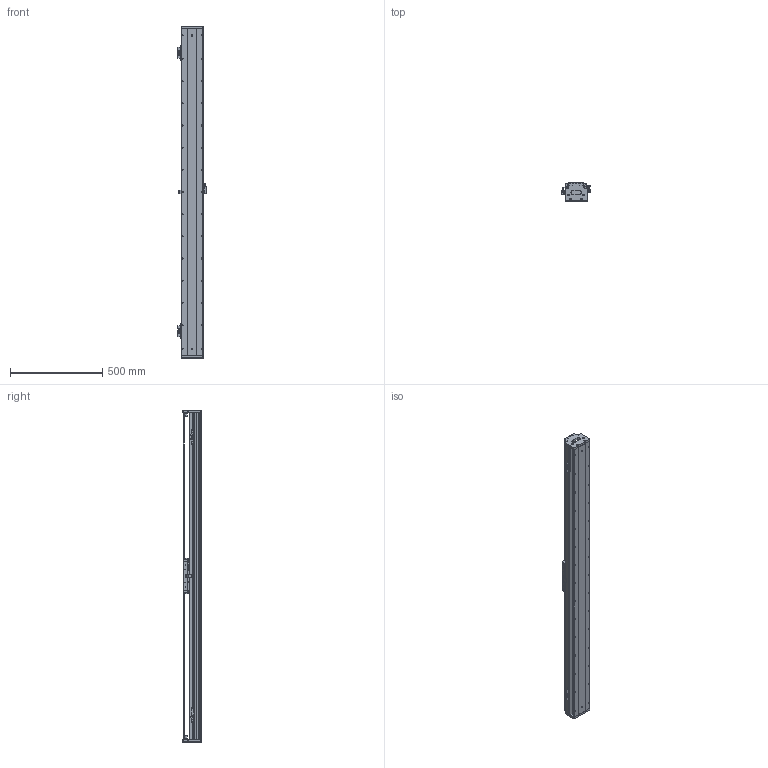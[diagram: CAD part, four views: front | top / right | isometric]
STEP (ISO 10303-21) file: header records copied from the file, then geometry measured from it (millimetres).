
FILE_DESCRIPTION (( 'STEP AP203' ), '1' );
FILE_NAME ('DKW119-C2-W060(T1500-L005-0.2).STEP', '2021-09-01T06:47:26', ( '微软用户' ), ( '微软中国' ), 'SwSTEP 2.0', 'SolidWorks 2018', '' );
FILE_SCHEMA (( 'CONFIG_CONTROL_DESIGN' ));
Length unit declared in the file: millimetre
Products named in the file (23): 嫖萇羲壽蚾饜极A; 12018-0001-002-00 詩湍; DKW-SG-GYP-H-00 嫖萇覜茼え; 砎蝶猾沭; RUS嫖掑喜; 12160-0000-003-00 DKW120詩湍嶺輸; DKW119-RU-DTJ-00 RU2黍杅芛盓殤; Ru2; 12160-0000-004-00  DKW120詩湍揤輸; 萇儂堤盄 ^DKW119-C2-W060(T1500-L005-0.2); RUS嫖掑郪璃; DKW119 单轴模组-拉钢带组件; 12018-0001-001-00 菁釱; CKMA01-W060-TRLxxx; CKM02-W060_00; pm-y65; MSB15-DG-U; DKW-HXJ-JY-00 遣喳砎蝶; DKW119-C2-W060(T1500-L005-0.2); 10980-0001-003-00 嫖萇羲壽嘐隅釱; 11062-0001-004-00 DKW119傷啣; 嫖萇羲壽蚾饜极; 06652-0001-004-00 DKW120嶺輸菜輸
Assembly tree (36 placements, depth 3):
  DKW119-C2-W060(T1500-L005-0.2)
    12018-0001-001-00 菁釱
    MSB15-DG-U  x2
    DKW119-RU-DTJ-00 RU2黍杅芛盓殤
    萇儂堤盄 ^DKW119-C2-W060(T1500-L005-0.2)
    CKMA01-W060-TRLxxx
    DKW119 单轴模组-拉钢带组件
      DKW-HXJ-JY-00 遣喳砎蝶  x4
      11062-0001-004-00 DKW119傷啣  x2
      06652-0001-004-00 DKW120嶺輸菜輸  x4
      12018-0001-002-00 詩湍
      砎蝶猾沭  x2
      12160-0000-003-00 DKW120詩湍嶺輸  x2
      12160-0000-004-00  DKW120詩湍揤輸  x2
    嫖萇羲壽蚾饜极
      pm-y65
      10980-0001-003-00 嫖萇羲壽嘐隅釱
    嫖萇羲壽蚾饜极A
      pm-y65  x2
      10980-0001-003-00 嫖萇羲壽嘐隅釱
    DKW-SG-GYP-H-00 嫖萇覜茼え
    RUS嫖掑郪璃
      RUS嫖掑喜
      Ru2
    CKM02-W060_00
Bounding box: 154.3 x 99 x 1796 mm (x, y, z)
Volume: 7801621.1 mm3; surface area: 2550033.1 mm2
Topology: 42 solids, 91 shells, 4194 faces, 11177 edges, 7132 vertices
Faces by surface type: plane 2110, cylinder 1435, cone 402, bspline 247
Entity records: 127220 total; most frequent: CARTESIAN_POINT 43003, ORIENTED_EDGE 16955, DIRECTION 16310, EDGE_CURVE 8518, VERTEX_POINT 5591, AXIS2_PLACEMENT_3D 5516, LINE 5278, VECTOR 5278
